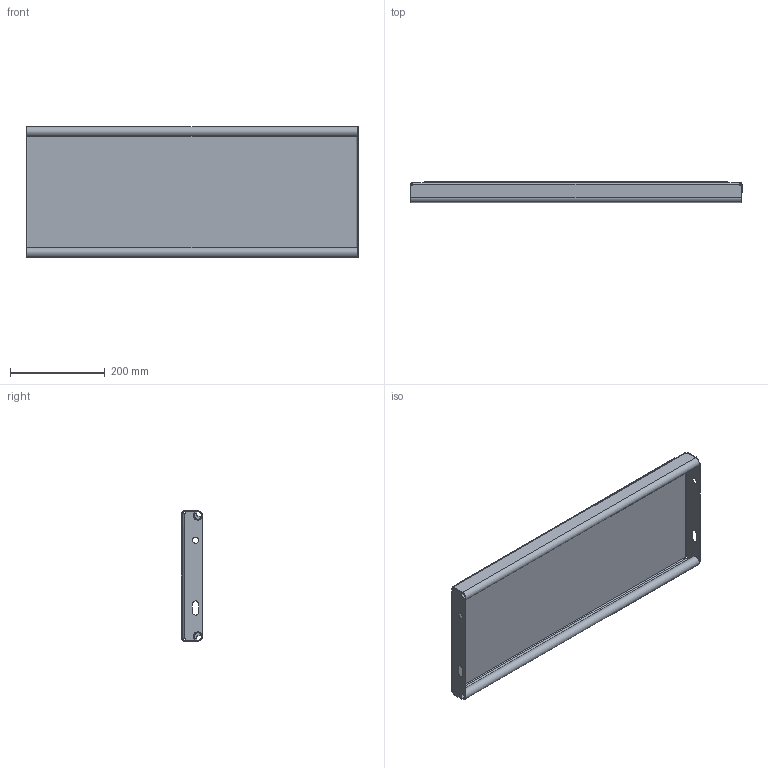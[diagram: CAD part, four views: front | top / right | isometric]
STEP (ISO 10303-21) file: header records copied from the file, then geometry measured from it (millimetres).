
FILE_DESCRIPTION (( 'STEP AP214' ), '1' );
FILE_NAME ('OPTIMO-Tread-Achil-O2-700x275x45x2-st240-F100420100_plain.STEP', '2021-03-17T14:02:39', ( '' ), ( '' ), 'SwSTEP 2.0', 'SolidWorks 2021', '' );
FILE_SCHEMA (( 'AUTOMOTIVE_DESIGN' ));
Length unit declared in the file: millimetre
Products named in the file (1): OPTIMO-Tread-Achil-O2-700x275x45x2-st240-F100420100_plain
Bounding box: 700 x 45 x 275 mm (x, y, z)
Volume: 1152070.8 mm3; surface area: 650424.9 mm2
Topology: 1 solids, 1 shells, 248 faces, 640 edges, 412 vertices
Faces by surface type: plane 173, bspline 39, cylinder 36
Entity records: 9924 total; most frequent: CARTESIAN_POINT 4092, ORIENTED_EDGE 1280, DIRECTION 1022, EDGE_CURVE 640, LINE 490, VECTOR 490, VERTEX_POINT 412, EDGE_LOOP 274
